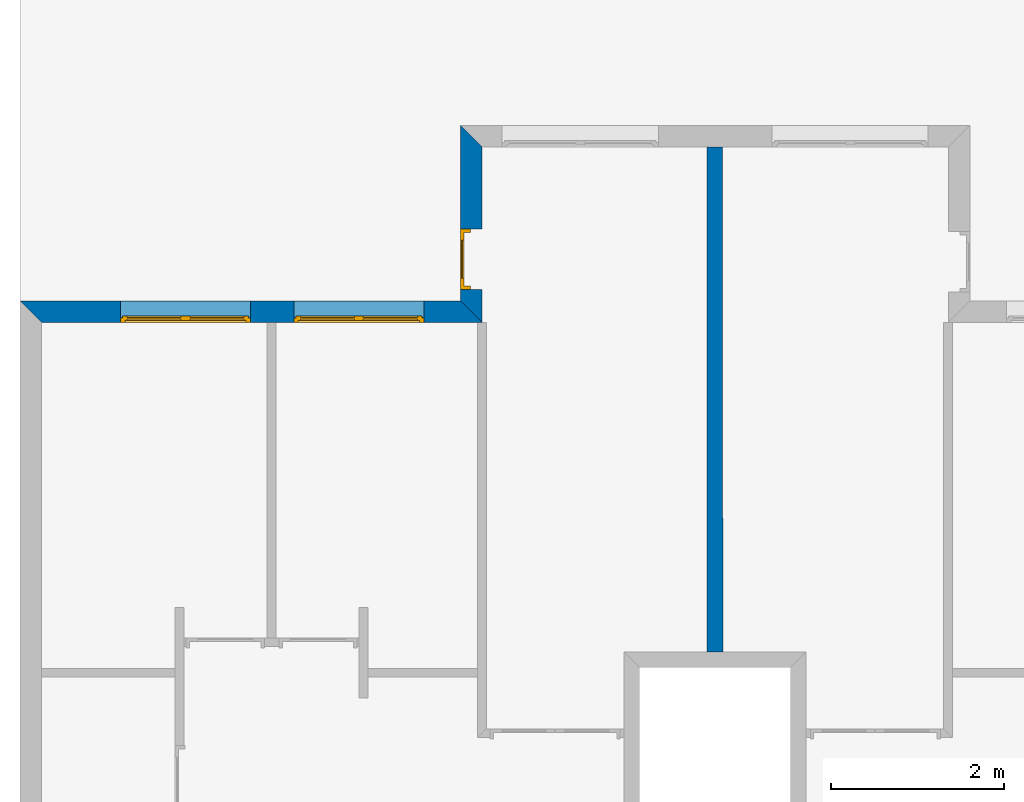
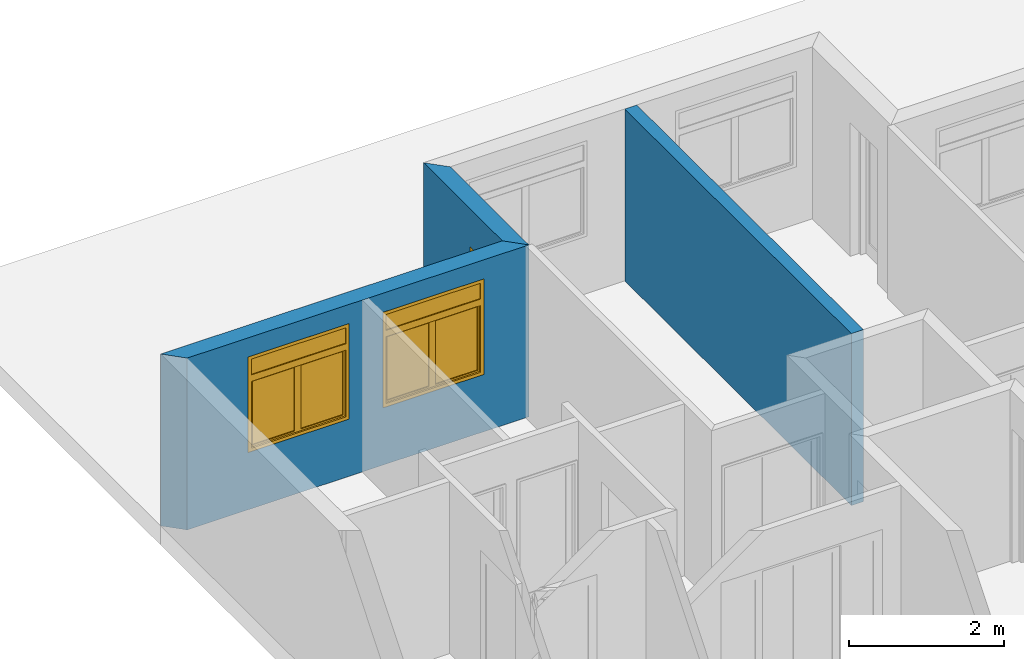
# One storey, part 10 of 12: 3 walls, 2 windows, 1 door, 3 openings.
"""IFC2X3 building model written with IfcOpenShell, lengths in metres."""

from ifc_helpers import new_model, entity, si_unit, converted_unit, direction, frame, frame_2d, origin_with_axes, place, context, project, spatial, polyline, rectangle, outline, extrude, faceted_brep, source, transform, mapped, material, layer, layer_set, layer_usage, type_object, element, fill, save


model = new_model("IFC2X3")

# Units and contexts
context_of_model = context(None, 3, precision=1e-05, world=origin_with_axes(), true_north=direction((6.123234e-17, 1.0)))
plan_context = context("Plan", 3, precision=1e-05, world=origin_with_axes(), true_north=direction((6.123234e-17, 1.0)))
model_context = context("Model", 3, precision=1e-05, world=origin_with_axes(), true_north=direction((6.123234e-17, 1.0)))
ifc_project = project(units=[si_unit("LENGTHUNIT", "METRE"), si_unit("AREAUNIT", "SQUARE_METRE"), si_unit("VOLUMEUNIT", "CUBIC_METRE"), converted_unit("PLANEANGLEUNIT", "DEGREE", entity("IfcPlaneAngleMeasure", 0.017453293), si_unit("PLANEANGLEUNIT", "RADIAN"), dimensions=[0, 0, 0, 0, 0, 0, 0]), si_unit("SOLIDANGLEUNIT", "STERADIAN"), si_unit("MASSUNIT", "GRAM"), si_unit("TIMEUNIT", "SECOND"), si_unit("THERMODYNAMICTEMPERATUREUNIT", "DEGREE_CELSIUS"), si_unit("LUMINOUSINTENSITYUNIT", "LUMEN")], contexts=[context_of_model, plan_context, model_context])

# Site, building, storey
site_placement = place(None, origin_with_axes())
site = spatial("IfcSite", under=ifc_project, at=site_placement, Name="Por defecto Sitio", CompositionType="ELEMENT")
building_placement = place(site_placement, origin_with_axes())
building = spatial("IfcBuilding", under=site, at=building_placement, Name="Por defecto Edificio", CompositionType="ELEMENT")
storey_placement = place(building_placement, frame((0.0, 0.0, 4.2), z_axis=(0.0, 0.0, 1.0), x_axis=(1.0, 0.0, 0.0)))
storey = spatial("IfcBuildingStorey", under=building, at=storey_placement, Name="Primera", CompositionType="ELEMENT", Elevation=4.2)

# Wall, openings, windows
ifc_material = material(Name="Ladrillo común")
ifc_layer_1 = layer(ifc_material, 0.25, ventilated="UNKNOWN")
ifc_layer_set_1 = layer_set([ifc_layer_1], Name="Ladrillo común")
ifc_layer_usage_1 = layer_usage(ifc_layer_set_1, "AXIS2", "NEGATIVE", 0.0)
wall_type_1 = type_object("IfcWallType", Name="Ladrillo común", PredefinedType="NOTDEFINED")
wall_1_placement = place(storey_placement, frame((0.0, 13.449173, 0.0), z_axis=(0.0, 0.0, 1.0), x_axis=(1.0, 0.0, 0.0)))
wall_1 = element("IfcWallStandardCase", 1, at=wall_1_placement, inside=storey, type_object=wall_type_1, material=ifc_layer_usage_1, Name="Muro-012", context=context_of_model, shape_type="SweptSolid", body=[
    extrude(outline(polyline([(0.25, -0.25), (5.3281164, -0.25), (5.0781164, 0.0), (0.0, 0.0), (0.25, -0.25)])), origin_with_axes(), (0.0, 0.0, 1.0), 2.7),
])
opening_1_placement = place(wall_1_placement, frame((3.9080742, -0.25, 0.9), z_axis=(0.0, 0.0, 1.0), x_axis=(1.0, 0.0, 0.0)))
opening_1 = element("IfcOpeningElement", 2, at=opening_1_placement, cuts=wall_1, ObjectType="Opening", context=model_context, shape_type="SweptSolid", body=[
    extrude(rectangle(XDim=1.5, YDim=1.5, at=frame_2d((0.0, 0.75), x_axis=(-1.0, 0.0))), frame((0.0, 0.0, 0.0), z_axis=(0.0, 1.0, 0.0), x_axis=(-1.0, 0.0, 0.0)), (0.0, 0.0, 1.0), 0.25),
])
opening_2_placement = place(wall_1_placement, frame((1.9080742, -0.25, 0.9), z_axis=(0.0, 0.0, 1.0), x_axis=(1.0, 0.0, 0.0)))
opening_2 = element("IfcOpeningElement", 3, at=opening_2_placement, cuts=wall_1, ObjectType="Opening", context=model_context, shape_type="SweptSolid", body=[
    extrude(rectangle(XDim=1.5, YDim=1.5, at=frame_2d((0.0, 0.75), x_axis=(-1.0, 0.0))), frame((0.0, 0.0, 0.0), z_axis=(0.0, 1.0, 0.0), x_axis=(-1.0, 0.0, 0.0)), (0.0, 0.0, 1.0), 0.25),
])
window_style_1 = type_object("IfcWindowStyle", Name="V M Doble 12", ConstructionType="NOTDEFINED", OperationType="DOUBLE_PANEL_HORIZONTAL", ParameterTakesPrecedence=False, Sizeable=False)
shared_shape_1 = source(origin_with_axes(), model_context, "Body", "Brep", [
    faceted_brep([(0.025, 0.05, 0.05), (0.0, 0.05, 0.05), (0.0, 0.05, 1.45), (0.05, 0.05, 1.45), (0.05, 0.05, 1.2), (0.05, 0.05, 1.125), (0.025, 0.05, 1.125), (0.025, 0.025, 0.05), (0.05, 0.025, 0.05), (0.05, 0.0, 0.05), (0.0, 0.0, 0.05), (0.0, 0.0, 1.45), (0.05, 0.0, 1.45), (0.05, 0.0, 1.2), (0.05, 0.025, 1.125), (0.05, 0.0, 1.1), (0.05, 0.025, 1.1), (0.025, 0.025, 1.125)], [[[0, 1, 2, 3, 4, 5, 6]], [[7, 8, 9, 10, 1, 0]], [[2, 1, 10, 11]], [[3, 2, 11, 12]], [[4, 3, 12, 13]], [[14, 5, 4, 13, 15, 16]], [[14, 17, 6, 5]], [[6, 17, 7, 0]], [[16, 8, 7, 17, 14]], [[16, 15, 9, 8]], [[13, 12, 11, 10, 9, 15]]]),
    faceted_brep([(1.475, 0.05, 1.125), (1.45, 0.05, 1.125), (1.45, 0.05, 1.2), (1.45, 0.05, 1.45), (1.5, 0.05, 1.45), (1.5, 0.05, 0.05), (1.475, 0.05, 0.05), (1.475, 0.025, 1.125), (1.45, 0.025, 1.125), (1.45, 0.025, 1.1), (1.45, 0.0, 1.1), (1.45, 0.0, 1.2), (1.45, 0.0, 1.45), (1.5, 0.0, 1.45), (1.5, 0.0, 0.05), (1.475, 0.025, 0.05), (1.45, 0.0, 0.05), (1.45, 0.025, 0.05)], [[[0, 1, 2, 3, 4, 5, 6]], [[0, 7, 8, 1]], [[8, 9, 10, 11, 2, 1]], [[3, 2, 11, 12]], [[4, 3, 12, 13]], [[5, 4, 13, 14]], [[15, 6, 5, 14, 16, 17]], [[6, 15, 7, 0]], [[17, 9, 8, 7, 15]], [[17, 16, 10, 9]], [[14, 13, 12, 11, 10, 16]]]),
    faceted_brep([(0.05, 0.05, 1.125), (0.05, 0.05, 1.2), (1.45, 0.05, 1.2), (1.45, 0.05, 1.125), (0.75, 0.05, 1.125), (0.05, 0.025, 1.125), (0.05, 0.025, 1.1), (0.05, 0.0, 1.1), (0.05, 0.0, 1.2), (1.45, 0.0, 1.2), (1.45, 0.025, 1.125), (1.45, 0.0, 1.1), (1.45, 0.025, 1.1), (0.75, 0.025, 1.125)], [[[0, 1, 2, 3, 4]], [[5, 6, 7, 8, 1, 0]], [[2, 1, 8, 9]], [[10, 3, 2, 9, 11, 12]], [[10, 13, 4, 3]], [[4, 13, 5, 0]], [[12, 6, 5, 13, 10]], [[12, 11, 7, 6]], [[9, 8, 7, 11]]]),
    faceted_brep([(1.45, 0.025, 0.05), (1.45, 0.0, 0.05), (1.5, 0.0, 0.05), (1.5, 0.05, 0.05), (1.475, 0.05, 0.05), (1.475, 0.025, 0.05), (0.05, 0.025, 0.05), (0.05, 0.0, 0.05), (0.0, 0.0, 0.05), (0.0, 0.0, 0.0), (1.5, 0.0, 0.0), (1.5, 0.05, 0.0), (0.025, 0.05, 0.025), (0.75, 0.05, 0.025), (1.475, 0.05, 0.025), (0.0, 0.05, 0.0), (0.0, 0.05, 0.05), (0.025, 0.05, 0.05), (1.475, 0.025, 0.025), (0.75, 0.025, 0.025), (0.025, 0.025, 0.025), (0.025, 0.025, 0.05)], [[[0, 1, 2, 3, 4, 5]], [[6, 7, 1, 0]], [[8, 9, 10, 2, 1, 7]], [[11, 3, 2, 10]], [[12, 13, 14, 4, 3, 11, 15, 16, 17]], [[14, 18, 5, 4]], [[5, 18, 19, 20, 21, 6, 0]], [[21, 17, 16, 8, 7, 6]], [[16, 15, 9, 8]], [[15, 11, 10, 9]], [[12, 20, 19, 13]], [[13, 19, 18, 14]], [[21, 20, 12, 17]]]),
    faceted_brep([(1.45, 0.0, 1.45), (1.45, 0.05, 1.45), (1.5, 0.05, 1.45), (1.5, 0.0, 1.45), (0.05, 0.0, 1.45), (0.05, 0.05, 1.45), (0.0, 0.05, 1.45), (0.0, 0.05, 1.5), (1.5, 0.05, 1.5), (1.5, 0.0, 1.5), (0.0, 0.0, 1.5), (0.0, 0.0, 1.45)], [[[0, 1, 2, 3]], [[4, 5, 1, 0]], [[1, 5, 6, 7, 8, 2]], [[3, 2, 8, 9]], [[0, 3, 9, 10, 11, 4]], [[11, 6, 5, 4]], [[10, 7, 6, 11]], [[9, 8, 7, 10]]]),
    faceted_brep([(1.425, 0.025, 0.075), (1.425, 0.025, 1.075), (1.425, 0.075, 1.075), (1.425, 0.075, 0.075), (1.475, 0.025, 0.075), (1.475, 0.025, 1.075), (1.475, 0.075, 1.075), (1.475, 0.075, 0.075)], [[[0, 1, 2, 3]], [[0, 4, 5, 1]], [[1, 5, 6, 2]], [[3, 2, 6, 7]], [[4, 0, 3, 7]], [[5, 4, 7, 6]]]),
    faceted_brep([(0.75, 0.025, 0.075), (0.75, 0.025, 1.075), (0.75, 0.075, 1.075), (0.75, 0.075, 0.075), (0.8, 0.025, 0.075), (0.8, 0.025, 1.075), (0.8, 0.075, 1.075), (0.8, 0.075, 0.075)], [[[0, 1, 2, 3]], [[0, 4, 5, 1]], [[1, 5, 6, 2]], [[3, 2, 6, 7]], [[4, 0, 3, 7]], [[5, 4, 7, 6]]]),
    faceted_brep([(0.75, 0.025, 0.025), (0.75, 0.025, 0.075), (0.75, 0.075, 0.075), (0.75, 0.075, 0.025), (1.475, 0.025, 0.025), (1.475, 0.025, 0.075), (1.425, 0.025, 0.075), (0.8, 0.025, 0.075), (0.8, 0.075, 0.075), (1.425, 0.075, 0.075), (1.475, 0.075, 0.075), (1.475, 0.075, 0.025)], [[[0, 1, 2, 3]], [[0, 4, 5, 6, 7, 1]], [[1, 7, 8, 2]], [[3, 2, 8, 9, 10, 11]], [[4, 0, 3, 11]], [[5, 4, 11, 10]], [[6, 5, 10, 9]], [[7, 6, 9, 8]]]),
    faceted_brep([(1.475, 0.025, 1.125), (1.475, 0.025, 1.075), (1.475, 0.075, 1.075), (1.475, 0.075, 1.125), (0.75, 0.025, 1.125), (0.75, 0.025, 1.075), (0.8, 0.025, 1.075), (1.425, 0.025, 1.075), (1.425, 0.075, 1.075), (0.8, 0.075, 1.075), (0.75, 0.075, 1.075), (0.75, 0.075, 1.125)], [[[0, 1, 2, 3]], [[0, 4, 5, 6, 7, 1]], [[1, 7, 8, 2]], [[3, 2, 8, 9, 10, 11]], [[4, 0, 3, 11]], [[5, 4, 11, 10]], [[6, 5, 10, 9]], [[7, 6, 9, 8]]]),
    faceted_brep([(1.425, 0.04, 0.075), (0.8, 0.04, 0.075), (0.8, 0.06, 0.075), (1.425, 0.06, 0.075), (1.425, 0.04, 1.075), (0.8, 0.04, 1.075), (0.8, 0.06, 1.075), (1.425, 0.06, 1.075)], [[[0, 1, 2, 3]], [[0, 4, 5, 1]], [[1, 5, 6, 2]], [[3, 2, 6, 7]], [[4, 0, 3, 7]], [[5, 4, 7, 6]]]),
    faceted_brep([(0.7, 0.025, 0.075), (0.7, 0.025, 1.075), (0.7, 0.075, 1.075), (0.7, 0.075, 0.075), (0.75, 0.025, 0.075), (0.75, 0.025, 1.075), (0.75, 0.075, 1.075), (0.75, 0.075, 0.075)], [[[0, 1, 2, 3]], [[0, 4, 5, 1]], [[1, 5, 6, 2]], [[3, 2, 6, 7]], [[4, 0, 3, 7]], [[5, 4, 7, 6]]]),
    faceted_brep([(0.025, 0.025, 0.075), (0.025, 0.025, 1.075), (0.025, 0.075, 1.075), (0.025, 0.075, 0.075), (0.075, 0.025, 0.075), (0.075, 0.025, 1.075), (0.075, 0.075, 1.075), (0.075, 0.075, 0.075)], [[[0, 1, 2, 3]], [[0, 4, 5, 1]], [[1, 5, 6, 2]], [[3, 2, 6, 7]], [[4, 0, 3, 7]], [[5, 4, 7, 6]]]),
    faceted_brep([(0.025, 0.025, 0.025), (0.025, 0.025, 0.075), (0.025, 0.075, 0.075), (0.025, 0.075, 0.025), (0.75, 0.025, 0.025), (0.75, 0.025, 0.075), (0.7, 0.025, 0.075), (0.075, 0.025, 0.075), (0.075, 0.075, 0.075), (0.7, 0.075, 0.075), (0.75, 0.075, 0.075), (0.75, 0.075, 0.025)], [[[0, 1, 2, 3]], [[0, 4, 5, 6, 7, 1]], [[1, 7, 8, 2]], [[3, 2, 8, 9, 10, 11]], [[4, 0, 3, 11]], [[5, 4, 11, 10]], [[6, 5, 10, 9]], [[7, 6, 9, 8]]]),
    faceted_brep([(0.75, 0.025, 1.125), (0.75, 0.025, 1.075), (0.75, 0.075, 1.075), (0.75, 0.075, 1.125), (0.025, 0.025, 1.125), (0.025, 0.025, 1.075), (0.075, 0.025, 1.075), (0.7, 0.025, 1.075), (0.7, 0.075, 1.075), (0.075, 0.075, 1.075), (0.025, 0.075, 1.075), (0.025, 0.075, 1.125)], [[[0, 1, 2, 3]], [[0, 4, 5, 6, 7, 1]], [[1, 7, 8, 2]], [[3, 2, 8, 9, 10, 11]], [[4, 0, 3, 11]], [[5, 4, 11, 10]], [[6, 5, 10, 9]], [[7, 6, 9, 8]]]),
    faceted_brep([(0.7, 0.04, 0.075), (0.075, 0.04, 0.075), (0.075, 0.06, 0.075), (0.7, 0.06, 0.075), (0.7, 0.04, 1.075), (0.075, 0.04, 1.075), (0.075, 0.06, 1.075), (0.7, 0.06, 1.075)], [[[0, 1, 2, 3]], [[0, 4, 5, 1]], [[1, 5, 6, 2]], [[3, 2, 6, 7]], [[4, 0, 3, 7]], [[5, 4, 7, 6]]]),
    faceted_brep([(1.45, 0.015, 1.2), (0.05, 0.015, 1.2), (0.05, 0.035, 1.2), (1.45, 0.035, 1.2), (1.45, 0.015, 1.45), (0.05, 0.015, 1.45), (0.05, 0.035, 1.45), (1.45, 0.035, 1.45)], [[[0, 1, 2, 3]], [[0, 4, 5, 1]], [[1, 5, 6, 2]], [[3, 2, 6, 7]], [[4, 0, 3, 7]], [[5, 4, 7, 6]]]),
])
window_1_placement = place(opening_1_placement, frame((-0.75, 0.0, 0.0), z_axis=(0.0, 0.0, 1.0), x_axis=(1.0, 0.0, 0.0)))
window_1 = element("IfcWindow", 4, at=window_1_placement, inside=storey, type_object=window_style_1, Name="V14", OverallHeight=1.5, OverallWidth=1.5, context=model_context, shape_type="MappedRepresentation", body=[
    mapped(shared_shape_1, transform((0.0, 0.0, 0.0), scale=1.0)),
])
fill(opening_1, window_1)
window_style_2 = type_object("IfcWindowStyle", Name="V M Doble 12", ConstructionType="NOTDEFINED", OperationType="DOUBLE_PANEL_HORIZONTAL", ParameterTakesPrecedence=False, Sizeable=False)
shared_shape_2 = source(origin_with_axes(), model_context, "Body", "Brep", [
    faceted_brep([(1.475, 0.05, 0.05), (1.475, 0.05, 1.125), (1.45, 0.05, 1.125), (1.45, 0.05, 1.2), (1.45, 0.05, 1.45), (1.5, 0.05, 1.45), (1.5, 0.05, 0.05), (1.475, 0.025, 0.05), (1.475, 0.025, 1.125), (1.45, 0.025, 1.125), (1.45, 0.025, 1.1), (1.45, 0.0, 1.1), (1.45, 0.0, 1.2), (1.45, 0.0, 1.45), (1.5, 0.0, 1.45), (1.5, 0.0, 0.05), (1.45, 0.0, 0.05), (1.45, 0.025, 0.05)], [[[0, 1, 2, 3, 4, 5, 6]], [[1, 0, 7, 8]], [[9, 2, 1, 8]], [[9, 10, 11, 12, 3, 2]], [[3, 12, 13, 4]], [[4, 13, 14, 5]], [[5, 14, 15, 6]], [[7, 0, 6, 15, 16, 17]], [[10, 9, 8, 7, 17]], [[10, 17, 16, 11]], [[12, 11, 16, 15, 14, 13]]]),
    faceted_brep([(0.025, 0.05, 1.125), (0.025, 0.05, 0.05), (0.0, 0.05, 0.05), (0.0, 0.05, 1.45), (0.05, 0.05, 1.45), (0.05, 0.05, 1.2), (0.05, 0.05, 1.125), (0.025, 0.025, 1.125), (0.025, 0.025, 0.05), (0.05, 0.025, 0.05), (0.05, 0.0, 0.05), (0.0, 0.0, 0.05), (0.0, 0.0, 1.45), (0.05, 0.0, 1.45), (0.05, 0.0, 1.2), (0.05, 0.025, 1.125), (0.05, 0.0, 1.1), (0.05, 0.025, 1.1)], [[[0, 1, 2, 3, 4, 5, 6]], [[1, 0, 7, 8]], [[8, 9, 10, 11, 2, 1]], [[2, 11, 12, 3]], [[3, 12, 13, 4]], [[4, 13, 14, 5]], [[15, 6, 5, 14, 16, 17]], [[0, 6, 15, 7]], [[9, 8, 7, 15, 17]], [[9, 17, 16, 10]], [[11, 10, 16, 14, 13, 12]]]),
    faceted_brep([(1.45, 0.05, 1.125), (0.75, 0.05, 1.125), (0.05, 0.05, 1.125), (0.05, 0.05, 1.2), (1.45, 0.05, 1.2), (1.45, 0.025, 1.125), (0.75, 0.025, 1.125), (0.05, 0.025, 1.125), (0.05, 0.025, 1.1), (0.05, 0.0, 1.1), (0.05, 0.0, 1.2), (1.45, 0.0, 1.2), (1.45, 0.0, 1.1), (1.45, 0.025, 1.1)], [[[0, 1, 2, 3, 4]], [[1, 0, 5, 6]], [[7, 2, 1, 6]], [[7, 8, 9, 10, 3, 2]], [[3, 10, 11, 4]], [[5, 0, 4, 11, 12, 13]], [[8, 7, 6, 5, 13]], [[8, 13, 12, 9]], [[10, 9, 12, 11]]]),
    faceted_brep([(0.05, 0.025, 0.05), (0.025, 0.025, 0.05), (0.025, 0.05, 0.05), (0.0, 0.05, 0.05), (0.0, 0.0, 0.05), (0.05, 0.0, 0.05), (1.45, 0.025, 0.05), (1.475, 0.025, 0.05), (1.475, 0.025, 0.025), (0.75, 0.025, 0.025), (0.025, 0.025, 0.025), (0.025, 0.05, 0.025), (1.475, 0.05, 0.025), (1.475, 0.05, 0.05), (1.5, 0.05, 0.05), (1.5, 0.05, 0.0), (0.0, 0.05, 0.0), (0.75, 0.05, 0.025), (0.0, 0.0, 0.0), (1.5, 0.0, 0.05), (1.45, 0.0, 0.05), (1.5, 0.0, 0.0)], [[[0, 1, 2, 3, 4, 5]], [[1, 0, 6, 7, 8, 9, 10]], [[11, 2, 1, 10]], [[12, 13, 14, 15, 16, 3, 2, 11, 17]], [[16, 18, 4, 3]], [[19, 20, 5, 4, 18, 21]], [[6, 0, 5, 20]], [[7, 6, 20, 19, 14, 13]], [[7, 13, 12, 8]], [[12, 17, 9, 8]], [[17, 11, 10, 9]], [[14, 19, 21, 15]], [[15, 21, 18, 16]]]),
    faceted_brep([(0.05, 0.0, 1.45), (0.0, 0.0, 1.45), (0.0, 0.05, 1.45), (0.05, 0.05, 1.45), (1.45, 0.0, 1.45), (1.5, 0.0, 1.45), (1.5, 0.0, 1.5), (0.0, 0.0, 1.5), (0.0, 0.05, 1.5), (1.5, 0.05, 1.5), (1.5, 0.05, 1.45), (1.45, 0.05, 1.45)], [[[0, 1, 2, 3]], [[0, 4, 5, 6, 7, 1]], [[1, 7, 8, 2]], [[3, 2, 8, 9, 10, 11]], [[4, 0, 3, 11]], [[5, 4, 11, 10]], [[6, 5, 10, 9]], [[7, 6, 9, 8]]]),
    faceted_brep([(0.075, 0.025, 0.075), (0.075, 0.075, 0.075), (0.075, 0.075, 1.075), (0.075, 0.025, 1.075), (0.025, 0.025, 0.075), (0.025, 0.075, 0.075), (0.025, 0.075, 1.075), (0.025, 0.025, 1.075)], [[[0, 1, 2, 3]], [[4, 5, 1, 0]], [[1, 5, 6, 2]], [[3, 2, 6, 7]], [[0, 3, 7, 4]], [[7, 6, 5, 4]]]),
    faceted_brep([(0.75, 0.025, 0.075), (0.75, 0.075, 0.075), (0.75, 0.075, 1.075), (0.75, 0.025, 1.075), (0.7, 0.025, 0.075), (0.7, 0.075, 0.075), (0.7, 0.075, 1.075), (0.7, 0.025, 1.075)], [[[0, 1, 2, 3]], [[4, 5, 1, 0]], [[1, 5, 6, 2]], [[3, 2, 6, 7]], [[0, 3, 7, 4]], [[7, 6, 5, 4]]]),
    faceted_brep([(0.75, 0.025, 0.025), (0.75, 0.075, 0.025), (0.75, 0.075, 0.075), (0.75, 0.025, 0.075), (0.025, 0.025, 0.025), (0.025, 0.075, 0.025), (0.025, 0.075, 0.075), (0.075, 0.075, 0.075), (0.7, 0.075, 0.075), (0.7, 0.025, 0.075), (0.075, 0.025, 0.075), (0.025, 0.025, 0.075)], [[[0, 1, 2, 3]], [[4, 5, 1, 0]], [[1, 5, 6, 7, 8, 2]], [[3, 2, 8, 9]], [[0, 3, 9, 10, 11, 4]], [[11, 6, 5, 4]], [[10, 7, 6, 11]], [[9, 8, 7, 10]]]),
    faceted_brep([(0.025, 0.025, 1.125), (0.025, 0.075, 1.125), (0.025, 0.075, 1.075), (0.025, 0.025, 1.075), (0.75, 0.025, 1.125), (0.75, 0.075, 1.125), (0.75, 0.075, 1.075), (0.7, 0.075, 1.075), (0.075, 0.075, 1.075), (0.075, 0.025, 1.075), (0.7, 0.025, 1.075), (0.75, 0.025, 1.075)], [[[0, 1, 2, 3]], [[4, 5, 1, 0]], [[1, 5, 6, 7, 8, 2]], [[3, 2, 8, 9]], [[0, 3, 9, 10, 11, 4]], [[11, 6, 5, 4]], [[10, 7, 6, 11]], [[9, 8, 7, 10]]]),
    faceted_brep([(0.075, 0.04, 0.075), (0.075, 0.06, 0.075), (0.7, 0.06, 0.075), (0.7, 0.04, 0.075), (0.075, 0.04, 1.075), (0.075, 0.06, 1.075), (0.7, 0.06, 1.075), (0.7, 0.04, 1.075)], [[[0, 1, 2, 3]], [[4, 5, 1, 0]], [[1, 5, 6, 2]], [[3, 2, 6, 7]], [[0, 3, 7, 4]], [[7, 6, 5, 4]]]),
    faceted_brep([(0.8, 0.025, 0.075), (0.8, 0.075, 0.075), (0.8, 0.075, 1.075), (0.8, 0.025, 1.075), (0.75, 0.025, 0.075), (0.75, 0.075, 0.075), (0.75, 0.075, 1.075), (0.75, 0.025, 1.075)], [[[0, 1, 2, 3]], [[4, 5, 1, 0]], [[1, 5, 6, 2]], [[3, 2, 6, 7]], [[0, 3, 7, 4]], [[7, 6, 5, 4]]]),
    faceted_brep([(1.475, 0.025, 0.075), (1.475, 0.075, 0.075), (1.475, 0.075, 1.075), (1.475, 0.025, 1.075), (1.425, 0.025, 0.075), (1.425, 0.075, 0.075), (1.425, 0.075, 1.075), (1.425, 0.025, 1.075)], [[[0, 1, 2, 3]], [[4, 5, 1, 0]], [[1, 5, 6, 2]], [[3, 2, 6, 7]], [[0, 3, 7, 4]], [[7, 6, 5, 4]]]),
    faceted_brep([(1.475, 0.025, 0.025), (1.475, 0.075, 0.025), (1.475, 0.075, 0.075), (1.475, 0.025, 0.075), (0.75, 0.025, 0.025), (0.75, 0.075, 0.025), (0.75, 0.075, 0.075), (0.8, 0.075, 0.075), (1.425, 0.075, 0.075), (1.425, 0.025, 0.075), (0.8, 0.025, 0.075), (0.75, 0.025, 0.075)], [[[0, 1, 2, 3]], [[4, 5, 1, 0]], [[1, 5, 6, 7, 8, 2]], [[3, 2, 8, 9]], [[0, 3, 9, 10, 11, 4]], [[11, 6, 5, 4]], [[10, 7, 6, 11]], [[9, 8, 7, 10]]]),
    faceted_brep([(0.75, 0.025, 1.125), (0.75, 0.075, 1.125), (0.75, 0.075, 1.075), (0.75, 0.025, 1.075), (1.475, 0.025, 1.125), (1.475, 0.075, 1.125), (1.475, 0.075, 1.075), (1.425, 0.075, 1.075), (0.8, 0.075, 1.075), (0.8, 0.025, 1.075), (1.425, 0.025, 1.075), (1.475, 0.025, 1.075)], [[[0, 1, 2, 3]], [[4, 5, 1, 0]], [[1, 5, 6, 7, 8, 2]], [[3, 2, 8, 9]], [[0, 3, 9, 10, 11, 4]], [[11, 6, 5, 4]], [[10, 7, 6, 11]], [[9, 8, 7, 10]]]),
    faceted_brep([(0.8, 0.04, 0.075), (0.8, 0.06, 0.075), (1.425, 0.06, 0.075), (1.425, 0.04, 0.075), (0.8, 0.04, 1.075), (0.8, 0.06, 1.075), (1.425, 0.06, 1.075), (1.425, 0.04, 1.075)], [[[0, 1, 2, 3]], [[4, 5, 1, 0]], [[1, 5, 6, 2]], [[3, 2, 6, 7]], [[0, 3, 7, 4]], [[7, 6, 5, 4]]]),
    faceted_brep([(0.05, 0.015, 1.2), (0.05, 0.035, 1.2), (1.45, 0.035, 1.2), (1.45, 0.015, 1.2), (0.05, 0.015, 1.45), (0.05, 0.035, 1.45), (1.45, 0.035, 1.45), (1.45, 0.015, 1.45)], [[[0, 1, 2, 3]], [[4, 5, 1, 0]], [[1, 5, 6, 2]], [[3, 2, 6, 7]], [[0, 3, 7, 4]], [[7, 6, 5, 4]]]),
])
window_2_placement = place(opening_2_placement, frame((-0.75, 0.0, 0.0), z_axis=(0.0, 0.0, 1.0), x_axis=(1.0, 0.0, 0.0)))
window_2 = element("IfcWindow", 5, at=window_2_placement, inside=storey, type_object=window_style_2, Name="V15", OverallHeight=1.5, OverallWidth=1.5, context=model_context, shape_type="MappedRepresentation", body=[
    mapped(shared_shape_2, transform((0.0, 0.0, 0.0), scale=1.0)),
])
fill(opening_2, window_2)

# Wall, opening, door
ifc_layer_usage_2 = layer_usage(ifc_layer_set_1, "AXIS2", "NEGATIVE", 0.0)
wall_2_placement = place(storey_placement, frame((5.0781164, 13.449173, 0.0), z_axis=(0.0, 0.0, 1.0), x_axis=(0.0, 1.0, 0.0)))
wall_2 = element("IfcWallStandardCase", 6, at=wall_2_placement, inside=storey, type_object=wall_type_1, material=ifc_layer_usage_2, Name="Muro-013", context=context_of_model, shape_type="SweptSolid", body=[
    extrude(outline(polyline([(-0.25, -0.25), (1.7734265, -0.25), (2.0234265, 0.0), (0.0, 0.0), (-0.25, -0.25)])), origin_with_axes(), (0.0, 0.0, 1.0), 2.7),
])
opening_3_placement = place(wall_2_placement, frame((0.47866866, -0.25, 0.0), z_axis=(0.0, 0.0, 1.0), x_axis=(1.0, 0.0, 0.0)))
opening_3 = element("IfcOpeningElement", 7, at=opening_3_placement, cuts=wall_2, ObjectType="Opening", context=model_context, shape_type="SweptSolid", body=[
    extrude(rectangle(XDim=0.7, YDim=2.1, at=frame_2d((0.0, 1.05), x_axis=(-1.0, 0.0))), frame((0.0, 0.0, 0.0), z_axis=(0.0, 1.0, 0.0), x_axis=(-1.0, 0.0, 0.0)), (0.0, 0.0, 1.0), 0.25),
])
door_style = type_object("IfcDoorStyle", Name="P1 12", ConstructionType="NOTDEFINED", OperationType="SINGLE_SWING_LEFT", ParameterTakesPrecedence=False, Sizeable=False)
shared_shape_3 = source(origin_with_axes(), model_context, "Body", "Brep", [
    faceted_brep([(0.66, 0.075, 0.0), (0.66, 0.0, 0.0), (0.66, 0.0, 2.06), (0.66, 0.075, 2.06), (0.672, 0.075, 0.0), (0.672, 0.115, 0.0), (0.7, 0.115, 0.0), (0.7, 0.0, 0.0), (0.7, 0.0, 2.06), (0.672, 0.075, 2.06), (0.7, 0.115, 2.06), (0.672, 0.115, 2.06)], [[[0, 1, 2, 3]], [[4, 5, 6, 7, 1, 0]], [[7, 8, 2, 1]], [[9, 3, 2, 8, 10, 11]], [[9, 4, 0, 3]], [[11, 5, 4, 9]], [[11, 10, 6, 5]], [[8, 7, 6, 10]]]),
    faceted_brep([(0.028, 0.075, 2.06), (0.028, 0.115, 2.06), (-1.4210855e-14, 0.115, 2.06), (-1.4210855e-14, 0.0, 2.06), (0.04, 0.0, 2.06), (0.04, 0.075, 2.06), (0.028, 0.075, 0.0), (0.028, 0.115, 0.0), (-1.4210855e-14, 0.115, 0.0), (0.0, 0.0, 0.0), (0.04, 0.0, 0.0), (0.04, 0.075, 0.0)], [[[0, 1, 2, 3, 4, 5]], [[0, 6, 7, 1]], [[7, 8, 2, 1]], [[9, 3, 2, 8]], [[10, 4, 3, 9]], [[5, 4, 10, 11]], [[5, 11, 6, 0]], [[6, 11, 10, 9, 8, 7]]]),
    faceted_brep([(0.672, 0.115, 2.072), (0.028, 0.115, 2.072), (0.028, 0.115, 2.06), (-1.4210855e-14, 0.115, 2.06), (-1.4210855e-14, 0.115, 2.1), (0.7, 0.115, 2.1), (0.7, 0.115, 2.06), (0.672, 0.115, 2.06), (0.672, 0.075, 2.072), (0.028, 0.075, 2.072), (0.028, 0.075, 2.06), (0.04, 0.075, 2.06), (0.04, 0.0, 2.06), (-1.4210855e-14, 0.0, 2.06), (-1.4210855e-14, 0.0, 2.1), (0.7, 0.0, 2.1), (0.7, 0.0, 2.06), (0.672, 0.075, 2.06), (0.66, 0.0, 2.06), (0.66, 0.075, 2.06)], [[[0, 1, 2, 3, 4, 5, 6, 7]], [[0, 8, 9, 1]], [[1, 9, 10, 2]], [[10, 11, 12, 13, 3, 2]], [[13, 14, 4, 3]], [[14, 15, 5, 4]], [[15, 16, 6, 5]], [[17, 7, 6, 16, 18, 19]], [[7, 17, 8, 0]], [[10, 9, 8, 17, 19, 11]], [[19, 18, 12, 11]], [[14, 13, 12, 18, 16, 15]]]),
    faceted_brep([(0.028, 0.115, 0.2), (0.128, 0.115, 0.2), (0.128, 0.075, 0.2), (0.028, 0.075, 0.2), (0.028, 0.115, 1.972), (0.128, 0.115, 1.972), (0.128, 0.075, 1.972), (0.028, 0.075, 1.972)], [[[0, 1, 2, 3]], [[0, 4, 5, 1]], [[1, 5, 6, 2]], [[3, 2, 6, 7]], [[4, 0, 3, 7]], [[5, 4, 7, 6]]]),
    faceted_brep([(0.672, 0.115, 0.2), (0.672, 0.115, 1.972), (0.672, 0.075, 1.972), (0.672, 0.075, 0.2), (0.572, 0.115, 0.2), (0.572, 0.115, 1.972), (0.572, 0.075, 1.972), (0.572, 0.075, 0.2)], [[[0, 1, 2, 3]], [[0, 4, 5, 1]], [[1, 5, 6, 2]], [[3, 2, 6, 7]], [[4, 0, 3, 7]], [[5, 4, 7, 6]]]),
    faceted_brep([(0.028, 0.115, 0.0), (0.672, 0.115, 0.0), (0.672, 0.075, 0.0), (0.028, 0.075, 0.0), (0.028, 0.115, 0.2), (0.128, 0.115, 0.2), (0.572, 0.115, 0.2), (0.672, 0.115, 0.2), (0.672, 0.075, 0.2), (0.572, 0.075, 0.2), (0.128, 0.075, 0.2), (0.028, 0.075, 0.2)], [[[0, 1, 2, 3]], [[0, 4, 5, 6, 7, 1]], [[1, 7, 8, 2]], [[3, 2, 8, 9, 10, 11]], [[4, 0, 3, 11]], [[5, 4, 11, 10]], [[6, 5, 10, 9]], [[7, 6, 9, 8]]]),
    faceted_brep([(0.028, 0.115, 2.072), (0.028, 0.115, 1.972), (0.028, 0.075, 1.972), (0.028, 0.075, 2.072), (0.672, 0.115, 2.072), (0.672, 0.115, 1.972), (0.572, 0.115, 1.972), (0.128, 0.115, 1.972), (0.128, 0.075, 1.972), (0.572, 0.075, 1.972), (0.672, 0.075, 1.972), (0.672, 0.075, 2.072)], [[[0, 1, 2, 3]], [[0, 4, 5, 6, 7, 1]], [[1, 7, 8, 2]], [[3, 2, 8, 9, 10, 11]], [[4, 0, 3, 11]], [[5, 4, 11, 10]], [[6, 5, 10, 9]], [[7, 6, 9, 8]]]),
    faceted_brep([(0.128, 0.101, 0.2), (0.572, 0.101, 0.2), (0.572, 0.089, 0.2), (0.128, 0.089, 0.2), (0.128, 0.101, 1.972), (0.572, 0.101, 1.972), (0.572, 0.089, 1.972), (0.128, 0.089, 1.972)], [[[0, 1, 2, 3]], [[0, 4, 5, 1]], [[1, 5, 6, 2]], [[3, 2, 6, 7]], [[4, 0, 3, 7]], [[5, 4, 7, 6]]]),
])
door_placement = place(opening_3_placement, frame((-0.35, 0.135, 0.0), z_axis=(0.0, 0.0, 1.0), x_axis=(1.0, 0.0, 0.0)))
door = element("IfcDoor", 8, at=door_placement, inside=storey, type_object=door_style, Name="P20", OverallHeight=2.1, OverallWidth=0.7, context=model_context, shape_type="MappedRepresentation", body=[
    mapped(shared_shape_3, transform((0.0, 0.0, 0.0), scale=1.0)),
])
fill(opening_3, door)

# Wall
ifc_layer_2 = layer(ifc_material, 0.18, ventilated="UNKNOWN")
ifc_layer_set_2 = layer_set([ifc_layer_2], Name="Ladrillo común")
ifc_layer_usage_3 = layer_usage(ifc_layer_set_2, "AXIS2", "NEGATIVE", 0.09)
wall_type_2 = type_object("IfcWallType", Name="Ladrillo común", PredefinedType="NOTDEFINED")
wall_3_placement = place(storey_placement, frame((8.014856, 9.4007615, 0.0), z_axis=(0.0, 0.0, 1.0), x_axis=(-0.00079976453, 0.99999968, 0.0)))
element("IfcWallStandardCase", 9, at=wall_3_placement, inside=storey, type_object=wall_type_2, material=ifc_layer_usage_3, Name="Muro-018", context=context_of_model, shape_type="SweptSolid", body=[
    extrude(outline(polyline([(-7.1978831e-05, -0.09), (5.8217675, -0.09), (5.8219114, 0.09), (7.1978831e-05, 0.09), (-7.1978831e-05, -0.09)])), origin_with_axes(), (0.0, 0.0, 1.0), 2.7),
])

save(model, "model.ifc")
